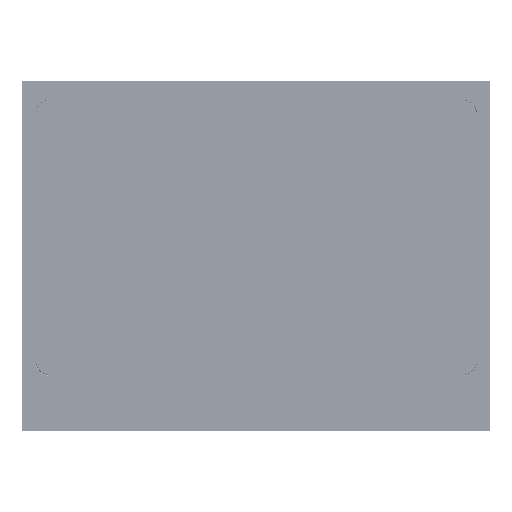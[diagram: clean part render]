
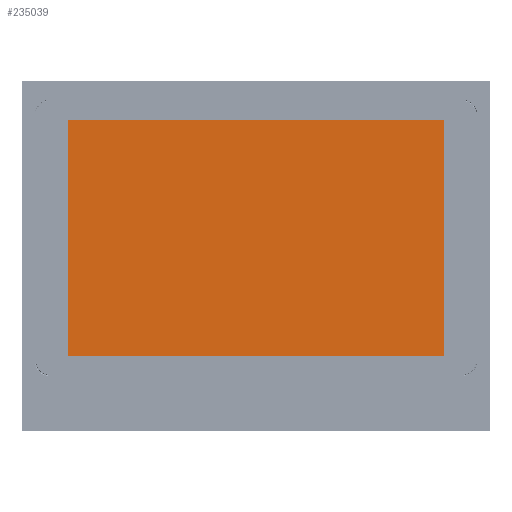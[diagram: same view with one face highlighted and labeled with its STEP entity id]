
A CAD part, top view. The second image highlights one B-rep face of the part: STEP entity #235039.
In plain terms, the highlighted planar face has unit normal (0, 0, 1).
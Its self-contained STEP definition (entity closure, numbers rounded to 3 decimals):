
#8438=PLANE('',#249638);
#26755=FACE_OUTER_BOUND('',#39226,.T.);
#39226=EDGE_LOOP('',(#199236,#199237,#199238,#199239));
#63902=LINE('',#387115,#88882);
#63906=LINE('',#387123,#88886);
#63909=LINE('',#387129,#88889);
#63912=LINE('',#387134,#88892);
#88882=VECTOR('',#296269,10.);
#88886=VECTOR('',#296275,10.);
#88889=VECTOR('',#296280,10.);
#88892=VECTOR('',#296285,10.);
#110932=VERTEX_POINT('',#387113);
#110933=VERTEX_POINT('',#387114);
#110936=VERTEX_POINT('',#387122);
#110938=VERTEX_POINT('',#387128);
#141400=EDGE_CURVE('',#110932,#110933,#63902,.T.);
#141404=EDGE_CURVE('',#110933,#110936,#63906,.T.);
#141407=EDGE_CURVE('',#110936,#110938,#63909,.T.);
#141410=EDGE_CURVE('',#110938,#110932,#63912,.T.);
#199236=ORIENTED_EDGE('',*,*,#141400,.T.);
#199237=ORIENTED_EDGE('',*,*,#141404,.T.);
#199238=ORIENTED_EDGE('',*,*,#141407,.T.);
#199239=ORIENTED_EDGE('',*,*,#141410,.T.);
#235039=ADVANCED_FACE('',(#26755),#8438,.F.);
#249638=AXIS2_PLACEMENT_3D('',#387173,#296329,#296330);
#296269=DIRECTION('',(-1.,0.,0.));
#296275=DIRECTION('',(0.,-1.,0.));
#296280=DIRECTION('',(1.,0.,0.));
#296285=DIRECTION('',(0.,1.,0.));
#296329=DIRECTION('center_axis',(0.,0.,
-1.));
#296330=DIRECTION('ref_axis',(-1.,0.,0.));
#387113=CARTESIAN_POINT('',(166.425,91.275,6.201));
#387114=CARTESIAN_POINT('',(-166.425,91.275,6.201));
#387115=CARTESIAN_POINT('',(83.213,91.275,6.201));
#387122=CARTESIAN_POINT('',(-166.425,-117.375,6.201));
#387123=CARTESIAN_POINT('',(-166.425,39.112,6.201));
#387128=CARTESIAN_POINT('',(166.425,-117.375,6.201));
#387129=CARTESIAN_POINT('',(-83.213,-117.375,6.201));
#387134=CARTESIAN_POINT('',(166.425,-65.213,6.201));
#387173=CARTESIAN_POINT('Origin',(0.,-13.05,
6.201));
